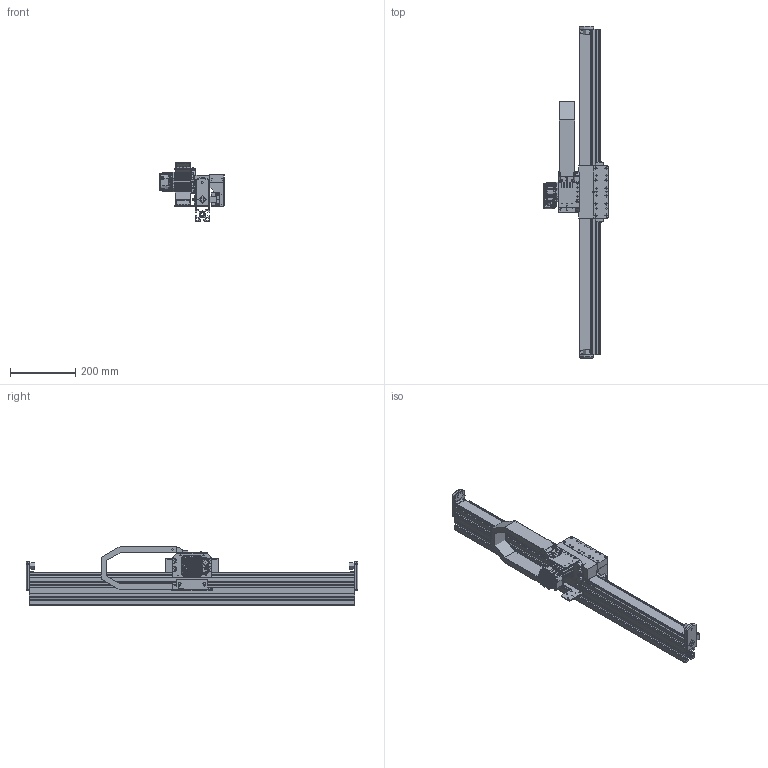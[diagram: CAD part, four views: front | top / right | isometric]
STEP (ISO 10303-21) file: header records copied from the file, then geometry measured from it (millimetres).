
FILE_DESCRIPTION( ( '' ), ' ' );
FILE_NAME( '/vol/tmp/translate-12891724896680241427/5c7ea1dd88742517065b09bf.step', '2019-03-05T16:20:50', ( '' ), ( '' ), ' ', ' ', ' ' );
FILE_SCHEMA( ( 'AUTOMOTIVE_DESIGN { 1 0 10303 214 1 1 1 1 }' ) );
Length unit declared in the file: metre
Products named in the file (81): RAIL FASTENERS <15>; 20mm BEARING RAIL CAP; 102684-001 BOSCH 10mm T-BLOCK M5; 100001-8065 M5-.80 X 25 ALLOY SHCS; TRAY FASTENERS <5>; #6743; #6751; RAIL FASTENERS <8>; TRAY FASTENERS <2>; RAIL FASTENERS <11>; RAIL FASTENERS <17>; RAIL FASTENERS <12>; TRAY FASTENERS <1>; RAIL FASTENERS <9>; RAIL FASTENERS <16>; RAIL FASTENERS <14>; RAIL FASTENERS <6>; RAIL FASTENERS <10>; RAIL FASTENERS <1>; RAIL FASTENERS <7>; TRAY FASTENERS <4>; RAIL FASTENERS <13>; TRAY FASTENERS <3>; RAIL FASTENERS <3>; RAIL FASTENERS <4>; RAIL FASTENERS <5>; RAIL FASTENERS <2>; 104587-001 SBL-M DYNAMIC BEARING ASSEMBLY <1>; 102638-005 5202 SHIELDED DOUBLE ROW BALL BEARING; 103126-001 SBL-M BEARING SHAFT; RAIL <1>; 102732-1000 20mm STANDARD GUIDE RAIL; 106888-001 20mm RAIL COVER; TRAY <1>; 102567-001 T5 X 32mm BELTING; 102656-1000 SBL-M BELT TRAY; 102610-005 VHB TAPE 1-1/4 WIDE; 104587-001 SBL-M DYNAMIC BEARING ASSEMBLY <2>; CPM-23XX & PINION <1>; GENERIC CPM 232X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
Assembly tree (190 placements, depth 5):
  Assem1
    102567-001 T5 X 32mm BELTING
    102977-001 LINKS
    SBL-M LEFT <2>
      100011-057 M3-.50 X 5 SS FHCS  x4
      102784-002 10mm T-NUT M5  x2
      100001-8062 M5-.80 X 14 ALLOY SHCS  x2
      102673-001 SBL E-CHAIN BOTTOM MOUNT
      102977-001POC IGUS E-CHAIN BRACKET WITH BORE
    SBL-M CPM23XX MOUNT <1>
      105432-019 SBL-M NEMA 23 MOTOR MOUNT
      100003-005 M6 SS F/W  x4
      100007-016 M5-.80 SS HEX NUT  x4
      100001-141 M6-1.0 X 18 SS  SHCS  x4
      100011-8027 M5-.80 X 14 ALLOY FHCS  x4
      CPM-23XX & PINION <1>
        GENERIC CPM 232X
        100013-008 M4 X 6 SS SET SCREW  x2
        104885-002 SBL-M PINION GEAR .375 BORE
    SBL WRAP MOUNT <1>
      102663-XXX SBL WRAPAROUND MOUNT
      100001-8062 M5-.80 X 14 ALLOY SHCS  x4
      102523-001 REXROTH 20mm STD 4-HOLE BEARING BLOCK
    1000 CHASSIS <1>
      102576-1000 45-SERIES PROFILE 45X90H
      RAIL <1>
        102732-1000 20mm STANDARD GUIDE RAIL
        106888-001 20mm RAIL COVER
        RAIL FASTENERS <2>
          102684-001 BOSCH 10mm T-BLOCK M5
          100001-8065 M5-.80 X 25 ALLOY SHCS
          20mm BEARING RAIL CAP
        RAIL FASTENERS <8>
          102684-001 BOSCH 10mm T-BLOCK M5
          20mm BEARING RAIL CAP
          100001-8065 M5-.80 X 25 ALLOY SHCS
        RAIL FASTENERS <4>
          100001-8065 M5-.80 X 25 ALLOY SHCS
          102684-001 BOSCH 10mm T-BLOCK M5
          20mm BEARING RAIL CAP
        RAIL FASTENERS <10>
          20mm BEARING RAIL CAP
          100001-8065 M5-.80 X 25 ALLOY SHCS
          102684-001 BOSCH 10mm T-BLOCK M5
        RAIL FASTENERS <11>
          20mm BEARING RAIL CAP
          102684-001 BOSCH 10mm T-BLOCK M5
          100001-8065 M5-.80 X 25 ALLOY SHCS
        RAIL FASTENERS <7>
          100001-8065 M5-.80 X 25 ALLOY SHCS
          102684-001 BOSCH 10mm T-BLOCK M5
          20mm BEARING RAIL CAP
        RAIL FASTENERS <16>
          102684-001 BOSCH 10mm T-BLOCK M5
          20mm BEARING RAIL CAP
          100001-8065 M5-.80 X 25 ALLOY SHCS
        RAIL FASTENERS <13>
          100001-8065 M5-.80 X 25 ALLOY SHCS
          20mm BEARING RAIL CAP
          102684-001 BOSCH 10mm T-BLOCK M5
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Bounding box: 197.66 x 1019.05 x 180.83 mm (x, y, z)
Topology: 175 solids, 182 shells, 7430 faces, 18412 edges, 11555 vertices
Faces by surface type: plane 2763, cylinder 1966, bspline 1047, torus 864, cone 701, sphere 47, extrusion 42
Full cylindrical faces by diameter (mm): 1.587 x1, 1.6 x1, 1.846 x1, 2 x1, 2.096 x1, 2.44 x114, 2.5 x24, 2.54 x2, 2.6 x4, 2.66 x4, 3 x12, 3.048 x4, 3.09 x4, 3.175 x2, 3.2 x8, 3.3 x2, 3.4 x2, 3.454 x5, 4 x10, 4.166 x5, 4.2 x29, 4.216 x16, 4.5 x9, 5 x35, 5.004 x45, 5.156 x5, 5.2 x4, 5.5 x44, 5.563 x12, 5.85 x8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
Entity records: 296087 total; most frequent: CARTESIAN_POINT 122814, ORIENTED_EDGE 26372, DIRECTION 25988, EDGE_CURVE 13186, AXIS2_PLACEMENT_3D 10437, VERTEX_POINT 8603, EDGE_LOOP 6973, FACE_OUTER_BOUND 6227
